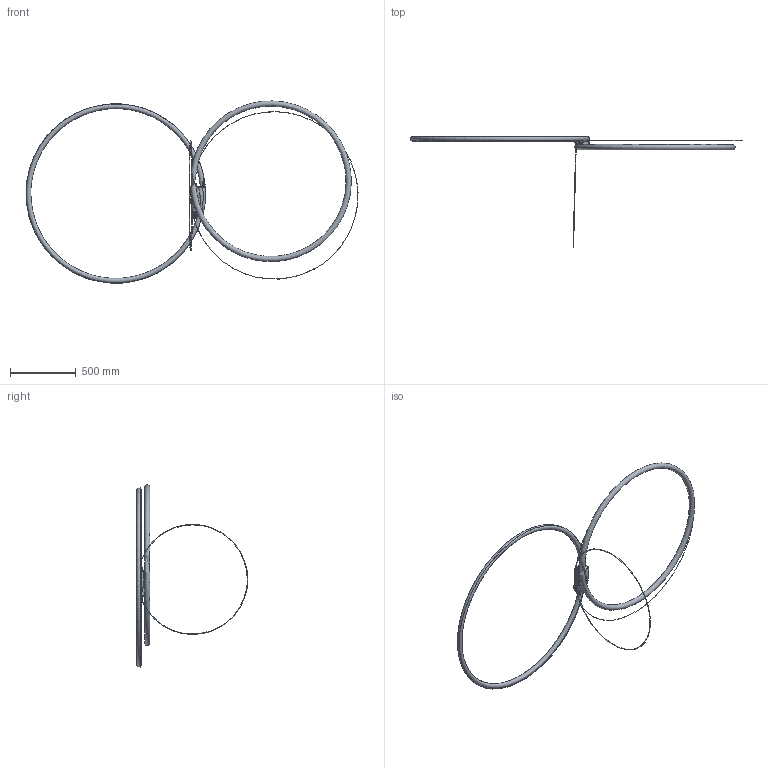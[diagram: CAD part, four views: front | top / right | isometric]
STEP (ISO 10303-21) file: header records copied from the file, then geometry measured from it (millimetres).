
FILE_DESCRIPTION((''),'2;1');
FILE_NAME('MD51-100-0613_ASM_ASM','2014-06-13T',('lily'),(''),'PRO/ENGINEER BY PARAMETRIC TECHNOLOGY CORPORATION, 2008400','PRO/ENGINEER BY PARAMETRIC TECHNOLOGY CORPORATION, 2008400','');
FILE_SCHEMA(('CONFIG_CONTROL_DESIGN'));
Products named in the file (5): _MD51-100-0613_ASM; _MD51-100-0613_ASM-099; ASM0001_ASM; MD51-100-0613_ASM-099_ASM_ASM; MD51-100-0613_ASM_ASM
Assembly tree (4 placements, depth 4):
  MD51-100-0613_ASM_ASM
    _MD51-100-0613_ASM
    MD51-100-0613_ASM-099_ASM_ASM
      ASM0001_ASM
        _MD51-100-0613_ASM-099
Bounding box: 2527.64 x 849.84 x 1387.21 mm (x, y, z)
Surface area: 2978541.5 mm2 (no closed solid volume)
Topology: 0 solids, 0 shells, 999 faces, 5434 edges, 5383 vertices
Faces by surface type: bspline 943, torus 51, sphere 5
Entity records: 112064 total; most frequent: CARTESIAN_POINT 59880, DIRECTION 7821, TRIMMED_CURVE 6802, VECTOR 5917, LINE 5917, DEFINITIONAL_REPRESENTATION 5331, PCURVE 5331, COMPOSITE_CURVE_SEGMENT 5331
